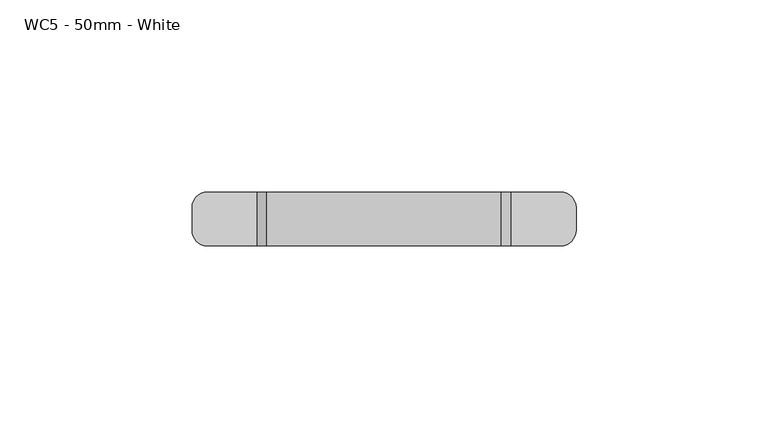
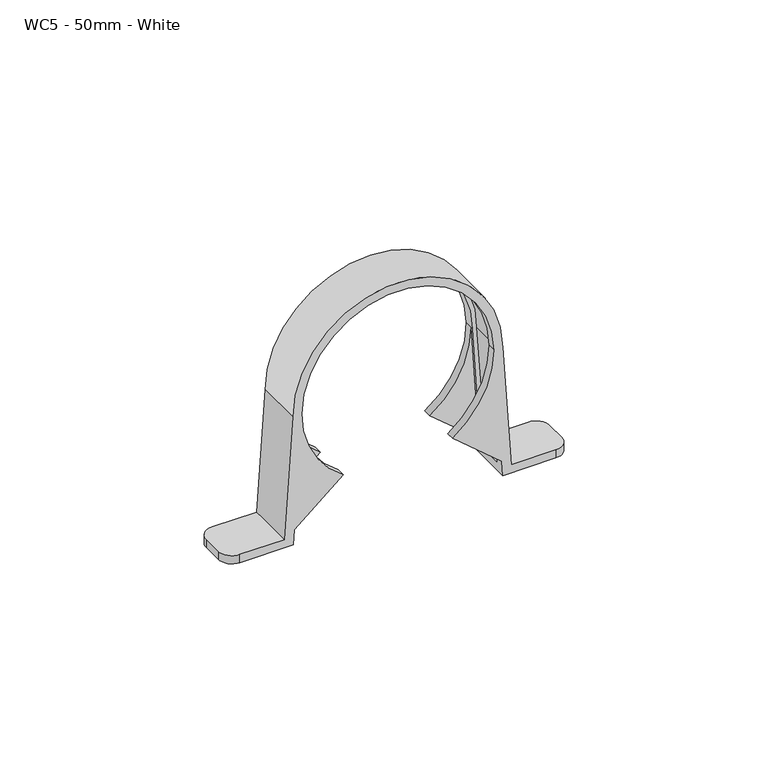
"""IFC4 building model written with IfcOpenShell, lengths in millimetres: pipe fitting geometry, MarleyPlumbingAndDrainage_PipeFitting_SaddlePipeClip : WC5 - 50mm - White."""

from ifc_helpers import new_model, si_unit, frame, origin, place, context, project, spatial, polyline, circle_curve, source, transform, mapped, element, save
from ifc_brep_helpers import plane_surface, cylinder_surface, revolved_surface, advanced_brep


def wc5_50mm_white_8bb5262e(model_context):
    return source(origin(), model_context, "Body", "AdvancedBrep", [
        advanced_brep(
        [(15.7150936, -7.0, -37.0), (13.2150936, -7.0, 0.0), (-47.7849064, -7.0, 0.0), (-50.2849064, -7.0, -37.0), (-63.2849064, -7.0, -37.0), (-63.2849064, -7.0, -39.5), (-47.7849064, -7.0, -39.5), (-47.4970355, -7.0, -34.9516398), (-33.2536258, -7.0, -23.0), (-45.2849064, -7.0, 0.0), (10.7150936, -7.0, 0.0), (-1.3161869, -7.0, -23.0), (12.9272227, -7.0, -34.9516398), (13.2150936, -7.0, -39.5), (28.7150936, -7.0, -39.5), (28.7150936, -7.0, -37.0), (-50.2849064, 7.0, -37.0), (-47.7849064, 7.0, 0.0), (13.2150936, 7.0, 0.0), (15.7150936, 7.0, -37.0), (28.7150936, 7.0, -37.0), (28.7150936, 7.0, -39.5), (13.2150936, 7.0, -39.5), (12.9272227, 7.0, -34.9516398), (-1.3161869, 7.0, -23.0), (10.7150936, 7.0, 0.0), (-45.2849064, 7.0, 0.0), (-33.2536258, 7.0, -23.0), (-47.4970355, 7.0, -34.9516398), (-47.7849064, 7.0, -39.5), (-63.2849064, 7.0, -39.5), (-63.2849064, 7.0, -37.0), (-49.0349064, 3.8, -37.0), (-46.5349064, 3.8, 0.0), (-46.5349064, -4.5, 0.0), (-49.0349064, -4.5, -37.0), (11.9650936, 3.8, 0.0), (11.9650936, -4.5, 0.0), (14.4650936, 3.8, -37.0), (14.4650936, -4.5, -37.0), (15.7150936, -4.5, -37.0), (15.7150936, 3.8, -37.0), (13.2150936, 3.8, 0.0), (13.2150936, -4.5, 0.0), (-47.7849064, 3.8, 0.0), (-47.7849064, -4.5, 0.0), (-50.2849064, 3.8, -37.0), (-50.2849064, -4.5, -37.0), (-45.2849064, 3.8, 0.0), (10.7150936, 3.8, 0.0), (13.0568658, 3.8, -37.0), (-47.6266785, 3.8, -37.0), (32.7150936, 3.0, -39.5), (32.7150936, -3.0, -39.5), (-67.2849064, -3.0, -39.5), (-67.2849064, 3.0, -39.5), (-45.2849064, 4.5, 0.0), (-47.6266785, -4.5, -37.0), (-47.4970355, -4.5, -34.9516398), (-47.4970355, 4.5, -34.9516398), (10.7150936, 4.5, 0.0), (12.9272227, 4.5, -34.9516398), (12.9272227, -4.5, -34.9516398), (13.0568658, -4.5, -37.0), (-33.2536258, 4.5, -23.0), (-1.3161869, 4.5, -23.0), (-45.2849064, -4.5, 0.0), (-33.2536258, -4.5, -23.0), (-1.3161869, -4.5, -23.0), (10.7150936, -4.5, 0.0), (-67.2849064, 3.0, -37.0), (-67.2849064, -3.0, -37.0), (32.7150936, -3.0, -37.0), (32.7150936, 3.0, -37.0)],
        [
            (0, 1),
            (1, 2, circle_curve(frame((-17.2849064, -7.0, 0.0), z_axis=(0.0, -1.0, 0.0), x_axis=(1.0, 0.0, 0.0)), 30.5)),
            (2, 3),
            (3, 4),
            (4, 5),
            (5, 6),
            (6, 7),
            (7, 8),
            (8, 9, circle_curve(frame((-17.2849064, -7.0, 0.0), z_axis=(0.0, 1.0, 0.0), x_axis=(1.0, 0.0, 0.0)), 28.0)),
            (9, 10, circle_curve(frame((-17.2849064, -7.0, 0.0), z_axis=(0.0, 1.0, 0.0), x_axis=(1.0, 0.0, 0.0)), 28.0)),
            (10, 11, circle_curve(frame((-17.2849064, -7.0, 0.0), z_axis=(0.0, 1.0, 0.0), x_axis=(1.0, 0.0, 0.0)), 28.0)),
            (11, 12),
            (12, 13),
            (13, 14),
            (14, 15),
            (15, 0),
            (16, 17),
            (17, 18, circle_curve(frame((-17.2849064, 7.0, 0.0), z_axis=(0.0, 1.0, 0.0), x_axis=(1.0, 0.0, 0.0)), 30.5)),
            (18, 19),
            (19, 20),
            (20, 21),
            (21, 22),
            (22, 23),
            (23, 24),
            (24, 25, circle_curve(frame((-17.2849064, 7.0, 0.0), z_axis=(0.0, -1.0, 0.0), x_axis=(1.0, 0.0, 0.0)), 28.0)),
            (25, 26, circle_curve(frame((-17.2849064, 7.0, 0.0), z_axis=(0.0, -1.0, 0.0), x_axis=(1.0, 0.0, 0.0)), 28.0)),
            (26, 27, circle_curve(frame((-17.2849064, 7.0, 0.0), z_axis=(0.0, -1.0, 0.0), x_axis=(1.0, 0.0, 0.0)), 28.0)),
            (27, 28),
            (28, 29),
            (29, 30),
            (30, 31),
            (31, 16),
            (32, 33),
            (33, 34),
            (34, 35),
            (35, 32),
            (33, 36, circle_curve(frame((-17.2849064, 3.8, 0.0), z_axis=(0.0, 1.0, 0.0), x_axis=(1.0, 0.0, 0.0)), 29.25)),
            (36, 37),
            (37, 34, circle_curve(frame((-17.2849064, -4.5, 0.0), z_axis=(0.0, -1.0, 0.0), x_axis=(1.0, 0.0, 0.0)), 29.25)),
            (36, 38),
            (38, 39),
            (39, 37),
            (0, 40),
            (40, 41),
            (41, 19),
            (18, 42),
            (42, 43),
            (43, 1),
            (17, 44),
            (44, 45),
            (45, 2),
            (16, 46),
            (46, 47),
            (47, 3),
            (48, 49, circle_curve(frame((-17.2849064, 3.8, 0.0), z_axis=(0.0, 1.0, 0.0), x_axis=(1.0, 0.0, 0.0)), 28.0)),
            (49, 50),
            (50, 38),
            (32, 51),
            (51, 48),
            (21, 52, circle_curve(frame((28.7150936, 3.0, -39.5), z_axis=(0.0, 0.0, -1.0), x_axis=(1.0, 0.0, 0.0)), 4.0)),
            (52, 53),
            (53, 14, circle_curve(frame((28.7150936, -3.0, -39.5), z_axis=(0.0, 0.0, -1.0), x_axis=(1.0, 0.0, 0.0)), 4.0)),
            (13, 22),
            (5, 54, circle_curve(frame((-63.2849064, -3.0, -39.5), z_axis=(0.0, 0.0, -1.0), x_axis=(1.0, 0.0, 0.0)), 4.0)),
            (54, 55),
            (55, 30, circle_curve(frame((-63.2849064, 3.0, -39.5), z_axis=(0.0, 0.0, -1.0), x_axis=(1.0, 0.0, 0.0)), 4.0)),
            (29, 6),
            (56, 48),
            (51, 57),
            (57, 58),
            (58, 7),
            (28, 59),
            (59, 56),
            (56, 26),
            (25, 60),
            (60, 49),
            (60, 61),
            (61, 23),
            (12, 62),
            (62, 63),
            (63, 50),
            (59, 64),
            (64, 56, circle_curve(frame((-17.2849064, 4.5, 0.0), z_axis=(0.0, 1.0, 0.0), x_axis=(1.0, 0.0, 0.0)), 28.0)),
            (60, 65, circle_curve(frame((-17.2849064, 4.5, 0.0), z_axis=(0.0, 1.0, 0.0), x_axis=(1.0, 0.0, 0.0)), 28.0)),
            (65, 61),
            (27, 64),
            (24, 65),
            (66, 67, circle_curve(frame((-17.2849064, -4.5, 0.0), z_axis=(0.0, -1.0, 0.0), x_axis=(1.0, 0.0, 0.0)), 28.0)),
            (67, 58),
            (57, 35),
            (39, 63),
            (62, 68),
            (68, 69, circle_curve(frame((-17.2849064, -4.5, 0.0), z_axis=(0.0, -1.0, 0.0), x_axis=(1.0, 0.0, 0.0)), 28.0)),
            (69, 66, circle_curve(frame((-17.2849064, -4.5, 0.0), z_axis=(0.0, -1.0, 0.0), x_axis=(1.0, 0.0, 0.0)), 28.0)),
            (67, 8),
            (66, 9),
            (10, 69),
            (68, 11),
            (31, 70, circle_curve(frame((-63.2849064, 3.0, -37.0), z_axis=(0.0, 0.0, 1.0), x_axis=(1.0, 0.0, 0.0)), 4.0)),
            (70, 71),
            (71, 4, circle_curve(frame((-63.2849064, -3.0, -37.0), z_axis=(0.0, 0.0, 1.0), x_axis=(1.0, 0.0, 0.0)), 4.0)),
            (15, 72, circle_curve(frame((28.7150936, -3.0, -37.0), z_axis=(0.0, 0.0, 1.0), x_axis=(1.0, 0.0, 0.0)), 4.0)),
            (72, 73),
            (73, 20, circle_curve(frame((28.7150936, 3.0, -37.0), z_axis=(0.0, 0.0, 1.0), x_axis=(1.0, 0.0, 0.0)), 4.0)),
            (55, 70),
            (54, 71),
            (53, 72),
            (52, 73),
        ],
        [
            plane_surface(frame((-50.2849064, -7.0, -37.0), z_axis=(0.0, -1.0, 0.0), x_axis=(1.0, 0.0, 0.0))),
            plane_surface(frame((-50.2849064, 7.0, -37.0), z_axis=(0.0, 1.0, 0.0), x_axis=(-1.0, 0.0, 0.0))),
            plane_surface(frame((-49.0349064, -7.0, -37.0), z_axis=(0.9977250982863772, 0.0, -0.0674138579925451), x_axis=(0.0, 1.0, 0.0))),
            revolved_surface(polyline([(11.9650936, 3.8, 0.0), (11.9650936, -4.5, 0.0)]), (-17.2849064, 7.0, 0.0), (0.0, 1.0, 0.0)),
            plane_surface(frame((11.9650936, -7.0, 0.0), z_axis=(-0.9977250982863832, 0.0, -0.06741385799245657), x_axis=(0.0, 1.0, 0.0))),
            plane_surface(frame((15.7150936, -7.0, -37.0), z_axis=(0.9977250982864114, 0.0, 0.06741385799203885), x_axis=(0.0, 1.0, 0.0))),
            cylinder_surface(frame((-17.2849064, 7.0, 0.0), z_axis=(0.0, -1.0, 0.0), x_axis=(1.0, 0.0, 0.0)), 30.5),
            plane_surface(frame((-47.7849064, -7.0, 0.0), z_axis=(-0.9977250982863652, 0.0, 0.06741385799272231), x_axis=(0.0, 1.0, 0.0))),
            plane_surface(frame((-47.7849064, 3.8, -39.5), z_axis=(0.0, -1.0, 0.0), x_axis=(1.0, 0.0, 0.0))),
            plane_surface(frame((-50.2849064, 3.8, -39.5), z_axis=(0.0, 0.0, -1.0), x_axis=(0.0, 1.0, 0.0))),
            plane_surface(frame((-47.7849064, 3.8, -39.5), z_axis=(0.9980031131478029, 0.0, -0.06316475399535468), x_axis=(0.0, 1.0, 0.0))),
            revolved_surface(polyline([(10.7150936, 7.0, 0.0), (10.7150936, 3.8, 0.0)]), (-17.2849064, 7.0, 0.0), (0.0, 1.0, 0.0)),
            plane_surface(frame((10.7150936, 3.8, 0.0), z_axis=(-0.998003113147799, 0.0, -0.06316475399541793), x_axis=(0.0, 1.0, 0.0))),
            plane_surface(frame((-33.2536258, 4.5, -23.0), z_axis=(0.0, -1.0, 0.0), x_axis=(0.7660444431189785, 0.0, 0.6427876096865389))),
            plane_surface(frame((-47.4970355, 4.5, -34.9516398), z_axis=(0.6427876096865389, 0.0, -0.7660444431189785), x_axis=(0.0, 1.0, 0.0))),
            revolved_surface(polyline([(10.7150936, 7.0, 0.0), (10.7150936, 4.5, 0.0)]), (-17.2849064, 7.0, 0.0), (0.0, 1.0, 0.0)),
            revolved_surface(polyline([(10.7150936, 7.0, 0.0), (10.7150936, 4.5, 0.0)]), (-17.2849064, 0.0, 0.0), (0.0, 1.0, 0.0)),
            plane_surface(frame((-1.3161869, 4.5, -23.0), z_axis=(-0.6427876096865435, 0.0, -0.7660444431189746), x_axis=(0.0, 1.0, 0.0))),
            plane_surface(frame((-33.2536258, -4.5, -23.0), z_axis=(0.0, 1.0, 0.0), x_axis=(-0.7660444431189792, 0.0, -0.6427876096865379))),
            plane_surface(frame((-47.4970355, -7.0, -34.9516398), z_axis=(0.6427876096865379, 0.0, -0.7660444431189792), x_axis=(0.0, 1.0, 0.0))),
            revolved_surface(polyline([(10.7150936, -4.5, 0.0), (10.7150936, -7.0, 0.0)]), (-17.2849064, -4.5, 0.0), (0.0, 1.0, 0.0)),
            revolved_surface(polyline([(10.7150936, -4.5, 0.0), (10.7150936, -7.0, 0.0)]), (-17.2849064, 0.0, 0.0), (0.0, 1.0, 0.0)),
            plane_surface(frame((-1.3161869, -7.0, -23.0), z_axis=(-0.6427876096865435, 0.0, -0.7660444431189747), x_axis=(0.0, 1.0, 0.0))),
            plane_surface(frame((-63.2849064, 7.0, -37.0), z_axis=(0.0, 0.0, 1.0), x_axis=(-1.0, 0.0, 0.0))),
            cylinder_surface(frame((-63.2849064, 3.0, -39.5), z_axis=(0.0, 0.0, 1.0), x_axis=(1.0, 0.0, 0.0)), 4.0),
            plane_surface(frame((-67.2849064, 3.0, -37.0), z_axis=(-1.0, 0.0, 0.0), x_axis=(0.0, 0.0, -1.0))),
            cylinder_surface(frame((-63.2849064, -3.0, -39.5), z_axis=(0.0, 0.0, 1.0), x_axis=(1.0, 0.0, 0.0)), 4.0),
            cylinder_surface(frame((28.7150936, -3.0, -39.5), z_axis=(0.0, 0.0, 1.0), x_axis=(1.0, 0.0, 0.0)), 4.0),
            plane_surface(frame((32.7150936, -3.0, -37.0), z_axis=(1.0, 0.0, 0.0), x_axis=(0.0, 0.0, -1.0))),
            cylinder_surface(frame((28.7150936, 3.0, -39.5), z_axis=(0.0, 0.0, 1.0), x_axis=(1.0, 0.0, 0.0)), 4.0),
        ],
        [
            (0, [[1, 2, 3, 4, 5, 6, 7, 8, 9, 10, 11, 12, 13, 14, 15, 16]]),
            (1, [[17, 18, 19, 20, 21, 22, 23, 24, 25, 26, 27, 28, 29, 30, 31, 32]]),
            (2, [[33, 34, 35, 36]]),
            (3, [[37, 38, 39, -34]]),
            (4, [[40, 41, 42, -38]]),
            (5, [[-1, 43, 44, 45, -19, 46, 47, 48]]),
            (6, [[-2, -48, -47, -46, -18, 49, 50, 51]]),
            (7, [[-3, -51, -50, -49, -17, 52, 53, 54]]),
            (8, [[55, 56, 57, -40, -37, -33, 58, 59]]),
            (9, [[60, 61, 62, -14, 63, -22]]),
            (9, [[64, 65, 66, -30, 67, -6]]),
            (10, [[68, -59, 69, 70, 71, -7, -67, -29, 72, 73]]),
            (11, [[-55, -68, 74, -26, 75, 76]]),
            (12, [[-76, 77, 78, -23, -63, -13, 79, 80, 81, -56]]),
            (13, [[82, 83, -73]]),
            (13, [[84, 85, -77]]),
            (14, [[-28, 86, -82, -72]]),
            (15, [[-27, -74, -83, -86]]),
            (16, [[-25, 87, -84, -75]]),
            (17, [[-24, -78, -85, -87]]),
            (18, [[88, 89, -70, 90, -35, -39, -42, 91, -80, 92, 93, 94]]),
            (19, [[-8, -71, -89, 95]]),
            (20, [[-9, -95, -88, 96]]),
            (21, [[-11, 97, -93, 98]]),
            (22, [[-12, -98, -92, -79]]),
            (20, [[-10, -96, -94, -97]]),
            (23, [[-36, -90, -69, -58]]),
            (23, [[-41, -57, -81, -91]]),
            (23, [[99, 100, 101, -4, -54, -53, -52, -32]]),
            (23, [[102, 103, 104, -20, -45, -44, -43, -16]]),
            (24, [[-66, 105, -99, -31]]),
            (25, [[-65, 106, -100, -105]]),
            (26, [[-64, -5, -101, -106]]),
            (27, [[-62, 107, -102, -15]]),
            (28, [[-61, 108, -103, -107]]),
            (29, [[-60, -21, -104, -108]]),
        ],
    ),
    ])


if __name__ == "__main__":
    model = new_model("IFC4")
    model_context = context("Model", 3, world=origin())
    ifc_project = project(units=[si_unit("LENGTHUNIT", "METRE", prefix="MILLI")], contexts=[model_context])
    site = spatial("IfcSite", under=ifc_project)
    building = spatial("IfcBuilding", under=site)
    placement = place(None, origin())
    wc5_50mm_white_shape = wc5_50mm_white_8bb5262e(model_context)
    element("IfcPipeFitting", 1, ObjectType="MarleyPlumbingAndDrainage_PipeFitting_SaddlePipeClip : WC5 - 50mm - White", at=placement, inside=building, context=model_context, shape_type="MappedRepresentation", body=[
        mapped(wc5_50mm_white_shape, transform((0.0, 0.0, 0.0), x_axis=(1.0, 0.0, 0.0), y_axis=(0.0, 1.0, 0.0), z_axis=(0.0, 0.0, 1.0))),
    ])
    save(model, "model.ifc")
